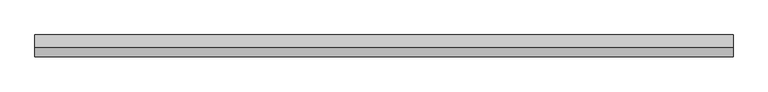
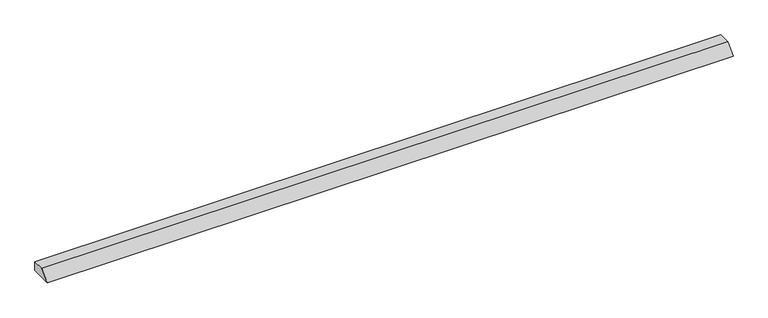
"""IFC4 building model written with IfcOpenShell, lengths in millimetres: proxy geometry, Gousset radier bord droit : Gousset radier bord droit."""

from ifc_helpers import new_model, si_unit, frame, origin, place, context, project, spatial, polyline, outline, extrude, source, transform, mapped, element, save


def generic_models_eec6437c(model_context):
    return source(origin(), model_context, "Body", "SweptSolid", [
        extrude(outline(polyline([(0.0, 0.0), (-800.0, 0.0), (-450.0, 350.0), (0.0, 350.0), (0.0, 0.0)])), frame((0.0, 0.0, 0.0), z_axis=(1.0, 0.0, 0.0), x_axis=(0.0, 1.0, 0.0)), (0.0, 0.0, 1.0), 25500.0000014),
    ])


if __name__ == "__main__":
    model = new_model("IFC4")
    model_context = context("Model", 3, world=origin())
    ifc_project = project(units=[si_unit("LENGTHUNIT", "METRE", prefix="MILLI")], contexts=[model_context])
    site = spatial("IfcSite", under=ifc_project)
    building = spatial("IfcBuilding", under=site)
    placement = place(None, origin())
    generic_models_shape = generic_models_eec6437c(model_context)
    element("IfcBuildingElementProxy", 1, Name="Gousset radier bord droit : Gousset radier bord droit", ObjectType="Gousset radier bord droit : Gousset radier bord droit", at=placement, inside=building, context=model_context, shape_type="MappedRepresentation", body=[
        mapped(generic_models_shape, transform((0.0, 0.0, 0.0), x_axis=(1.0, 0.0, 0.0), y_axis=(0.0, 1.0, 0.0), z_axis=(0.0, 0.0, 1.0))),
    ])
    save(model, "model.ifc")
